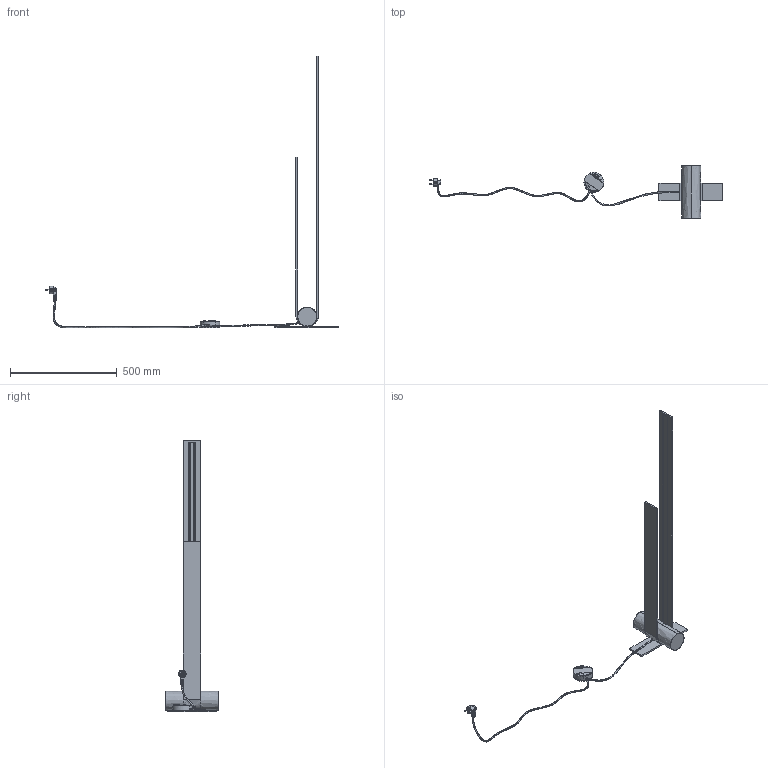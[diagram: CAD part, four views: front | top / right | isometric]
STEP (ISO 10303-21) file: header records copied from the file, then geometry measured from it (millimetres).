
FILE_DESCRIPTION(/* description */ (''),/* implementation_level */ '2;1');
FILE_NAME(/* name */ '57N9WI~R',/* time_stamp */ '2021-09-22T09:38:10+02:00',/* author */ (''),/* organization */ (''),/* preprocessor_version */ 'ST-DEVELOPER v15',/* originating_system */ '',/* authorisation */ '');
FILE_SCHEMA (('AUTOMOTIVE_DESIGN'));
Products named in the file (1): Document
Bounding box: 1378.58 x 248.2 x 1276.09 mm (x, y, z)
Volume: 1820161.6 mm3; surface area: 755446.2 mm2
Topology: 36 solids, 38 shells, 1727 faces, 4233 edges, 2594 vertices
Faces by surface type: bspline 1727
Entity records: 138824 total; most frequent: CARTESIAN_POINT 86786, B_SPLINE_CURVE_WITH_KNOTS 9802, ORIENTED_EDGE 8317, PCURVE 8317, DEFINITIONAL_REPRESENTATION 8317, SURFACE_CURVE 4200, EDGE_CURVE 4200, VERTEX_POINT 2594
